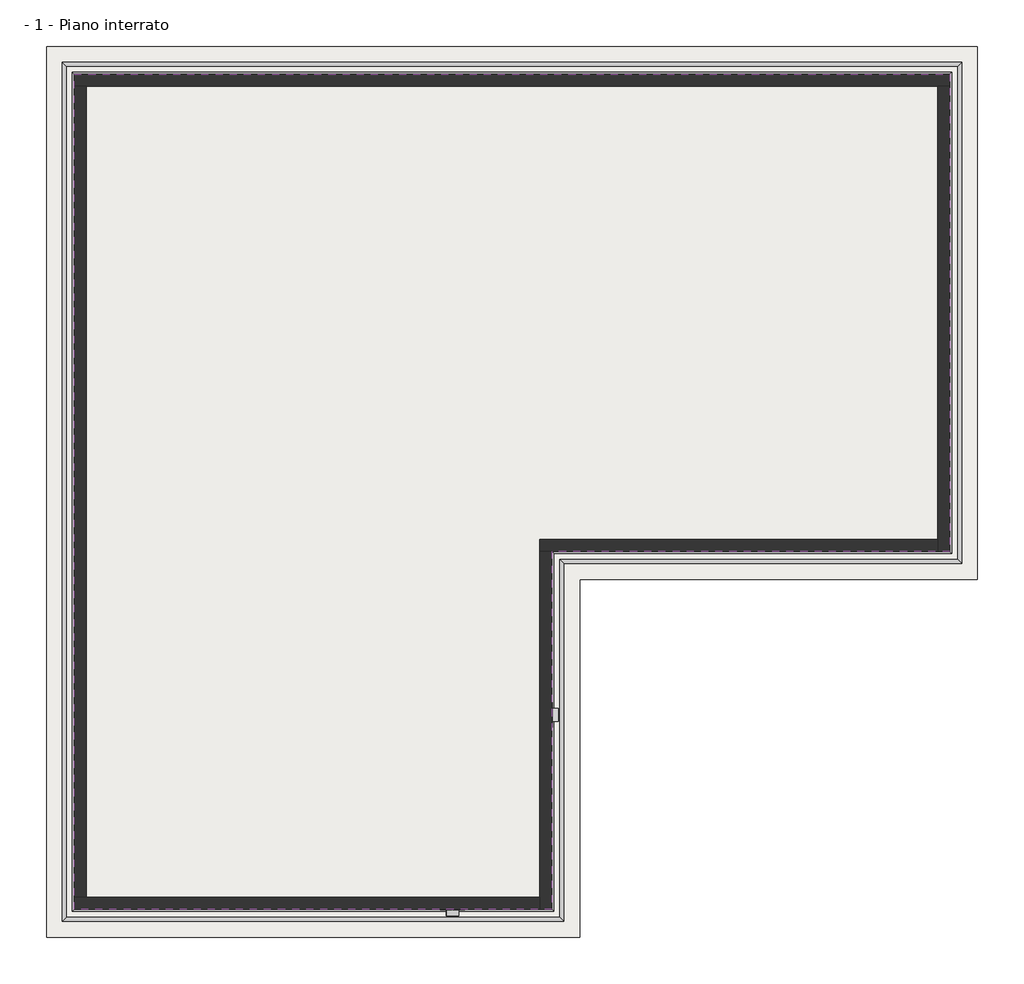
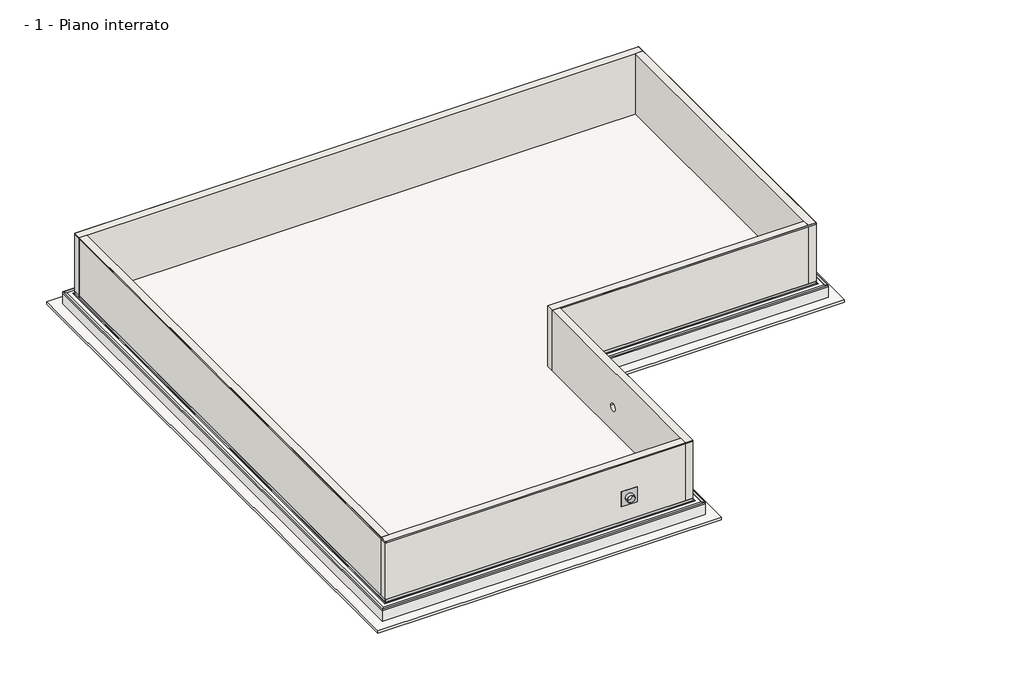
# One storey: 7 proxies, 6 walls, 2 slabs.
"""IFC4 building model written with IfcOpenShell, lengths in millimetres."""

from ifc_helpers import new_model, si_unit, frame, origin, place, context, project, spatial, polyline, circle_curve, outline, extrude, faceted_brep, transform, mapped, element, save
from ifc_brep_helpers import plane_surface, revolved_surface, advanced_brep
from components import generic_models_91e2fdae

model = new_model("IFC4")

# Units and contexts
model_context = context("Model", 3, world=origin())
ifc_project = project(units=[si_unit("LENGTHUNIT", "METRE", prefix="MILLI")], contexts=[model_context])

# Site, building, storey
site = spatial("IfcSite", under=ifc_project)
building = spatial("IfcBuilding", under=site)
storey = spatial("IfcBuildingStorey", under=building, Name="- 1 - Piano interrato", Elevation=-2500.0)

# Proxies
placement = place(None, origin())
element("IfcBuildingElementProxy", 1, Name="AMPHIBIA VOLTECO PRESSURE LINE", ObjectType="AMPHIBIA VOLTECO PRESSURE LINE", at=placement, inside=storey, context=model_context, shape_type="SweptSolid", body=[
    extrude(outline(polyline([(-8121.3472563, -9067.0974438), (-8122.3472563, -9068.0974438), (-8122.3472563, 11933.9025562), (-8121.3472563, 11932.9025562), (-8121.3472563, -9067.0974438)])), frame((0.0, 0.0, -50.0), z_axis=(0.0, 0.0, 1.0), x_axis=(1.0, 0.0, 0.0)), (0.0, 0.0, 1.0), 50.0),
    extrude(outline(polyline([(3878.6527437, -9067.0974438), (3879.6527437, -9068.0974438), (-8122.3472563, -9068.0974438), (-8121.3472563, -9067.0974438), (3878.6527437, -9067.0974438)])), frame((0.0, 0.0, -50.0), z_axis=(0.0, 0.0, 1.0), x_axis=(1.0, 0.0, 0.0)), (0.0, 0.0, 1.0), 50.0),
    extrude(outline(polyline([(3878.6527437, -67.0974438), (3879.6527437, -68.0974438), (3879.6527437, -9068.0974438), (3878.6527437, -9067.0974438), (3878.6527437, -67.0974438)])), frame((0.0, 0.0, -50.0), z_axis=(0.0, 0.0, 1.0), x_axis=(1.0, 0.0, 0.0)), (0.0, 0.0, 1.0), 50.0),
    extrude(outline(polyline([(13878.6527437, -67.0974438), (13879.6527437, -68.0974438), (3879.6527437, -68.0974438), (3878.6527437, -67.0974438), (13878.6527437, -67.0974438)])), frame((0.0, 0.0, -50.0), z_axis=(0.0, 0.0, 1.0), x_axis=(1.0, 0.0, 0.0)), (0.0, 0.0, 1.0), 50.0),
    extrude(outline(polyline([(13878.6527437, 11932.9025562), (13879.6527437, 11933.9025562), (13879.6527437, -68.0974438), (13878.6527437, -67.0974438), (13878.6527437, 11932.9025562)])), frame((0.0, 0.0, -50.0), z_axis=(0.0, 0.0, 1.0), x_axis=(1.0, 0.0, 0.0)), (0.0, 0.0, 1.0), 50.0),
    extrude(outline(polyline([(-8121.3472563, 11932.9025562), (-8122.3472563, 11933.9025562), (13879.6527437, 11933.9025562), (13878.6527437, 11932.9025562), (-8121.3472563, 11932.9025562)])), frame((0.0, 0.0, -50.0), z_axis=(0.0, 0.0, 1.0), x_axis=(1.0, 0.0, 0.0)), (0.0, 0.0, 1.0), 50.0),
])
element("IfcBuildingElementProxy", 2, Name="AMPHIBIA CORNER 90° VOLTECO", ObjectType="AMPHIBIA CORNER 90° VOLTECO", at=placement, inside=storey, context=model_context, shape_type="Brep", body=[
    faceted_brep([(14179.6527437, 12233.9025562, -2550.0), (14178.6527437, 12232.9025562, -2550.0), (-8421.3472563, 12232.9025562, -2550.0), (-8422.3472563, 12233.9025562, -2550.0), (14179.6527437, 12233.9025562, -2499.0), (-8422.3472563, 12233.9025562, -2499.0), (14078.6527437, 12132.9025562, -2499.0), (-8321.3472563, 12132.9025562, -2499.0), (14078.6527437, 12132.9025562, -2500.0), (-8321.3472563, 12132.9025562, -2500.0), (14178.6527437, 12232.9025562, -2500.0), (-8421.3472563, 12232.9025562, -2500.0), (-8421.3472563, -9367.0974438, -2550.0), (-8422.3472563, -9368.0974438, -2550.0), (-8422.3472563, -9368.0974438, -2499.0), (-8321.3472563, -9267.0974438, -2499.0), (-8321.3472563, -9267.0974438, -2500.0), (-8421.3472563, -9367.0974438, -2500.0), (4178.6527437, -9367.0974438, -2550.0), (4179.6527437, -9368.0974438, -2550.0), (4179.6527437, -9368.0974438, -2499.0), (4078.6527437, -9267.0974438, -2499.0), (4078.6527437, -9267.0974438, -2500.0), (4178.6527437, -9367.0974438, -2500.0), (4178.6527437, -367.0974438, -2550.0), (4179.6527437, -368.0974438, -2550.0), (4179.6527437, -368.0974438, -2499.0), (4078.6527437, -267.0974438, -2499.0), (4078.6527437, -267.0974438, -2500.0), (4178.6527437, -367.0974438, -2500.0), (14178.6527437, -367.0974438, -2550.0), (14179.6527437, -368.0974438, -2550.0), (14179.6527437, -368.0974438, -2499.0), (14078.6527437, -267.0974438, -2499.0), (14078.6527437, -267.0974438, -2500.0), (14178.6527437, -367.0974438, -2500.0)], [[[0, 1, 2, 3]], [[4, 0, 3, 5]], [[6, 4, 5, 7]], [[8, 6, 7, 9]], [[10, 8, 9, 11]], [[1, 10, 11, 2]], [[3, 2, 12, 13]], [[5, 3, 13, 14]], [[7, 5, 14, 15]], [[9, 7, 15, 16]], [[11, 9, 16, 17]], [[2, 11, 17, 12]], [[13, 12, 18, 19]], [[14, 13, 19, 20]], [[15, 14, 20, 21]], [[16, 15, 21, 22]], [[17, 16, 22, 23]], [[12, 17, 23, 18]], [[19, 18, 24, 25]], [[20, 19, 25, 26]], [[21, 20, 26, 27]], [[22, 21, 27, 28]], [[23, 22, 28, 29]], [[18, 23, 29, 24]], [[25, 24, 30, 31]], [[26, 25, 31, 32]], [[27, 26, 32, 33]], [[28, 27, 33, 34]], [[29, 28, 34, 35]], [[24, 29, 35, 30]], [[1, 0, 31, 30]], [[0, 4, 32, 31]], [[4, 6, 33, 32]], [[6, 8, 34, 33]], [[8, 10, 35, 34]], [[10, 1, 30, 35]]]),
])
element("IfcBuildingElementProxy", 3, Name="AKTI-VO 201 VOLTECO", ObjectType="AKTI-VO 201 VOLTECO", at=placement, inside=storey, context=model_context, shape_type="SweptSolid", body=[
    extrude(outline(polyline([(13902.5527437, 11956.8025562), (13903.5527437, 11957.8025562), (13903.5527437, -91.9974438), (13902.5527437, -90.9974438), (13902.5527437, 11956.8025562)])), frame((0.0, 0.0, -2500.0), z_axis=(0.0, 0.0, 1.0), x_axis=(1.0, 0.0, 0.0)), (0.0, 0.0, 1.0), 1.0),
    extrude(outline(polyline([(13902.5527437, -90.9974438), (13903.5527437, -91.9974438), (3903.5527437, -91.9974438), (3902.5527437, -90.9974438), (13902.5527437, -90.9974438)])), frame((0.0, 0.0, -2500.0), z_axis=(0.0, 0.0, 1.0), x_axis=(1.0, 0.0, 0.0)), (0.0, 0.0, 1.0), 1.0),
    extrude(outline(polyline([(3902.5527437, -90.9974438), (3903.5527437, -91.9974438), (3903.5527437, -9091.9974438), (3902.5527437, -9090.9974438), (3902.5527437, -90.9974438)])), frame((0.0, 0.0, -2500.0), z_axis=(0.0, 0.0, 1.0), x_axis=(1.0, 0.0, 0.0)), (0.0, 0.0, 1.0), 1.0),
    extrude(outline(polyline([(3902.5527437, -9090.9974438), (3903.5527437, -9091.9974438), (-8146.2472563, -9091.9974438), (-8145.2472563, -9090.9974438), (3902.5527437, -9090.9974438)])), frame((0.0, 0.0, -2500.0), z_axis=(0.0, 0.0, 1.0), x_axis=(1.0, 0.0, 0.0)), (0.0, 0.0, 1.0), 1.0),
    extrude(outline(polyline([(-8145.2472563, 11956.8025562), (-8146.2472563, 11957.8025562), (13903.5527437, 11957.8025562), (13902.5527437, 11956.8025562), (-8145.2472563, 11956.8025562)])), frame((0.0, 0.0, -2500.0), z_axis=(0.0, 0.0, 1.0), x_axis=(1.0, 0.0, 0.0)), (0.0, 0.0, 1.0), 1.0),
    extrude(outline(polyline([(-8145.2472563, -9090.9974438), (-8146.2472563, -9091.9974438), (-8146.2472563, 11957.8025562), (-8145.2472563, 11956.8025562), (-8145.2472563, -9090.9974438)])), frame((0.0, 0.0, -2500.0), z_axis=(0.0, 0.0, 1.0), x_axis=(1.0, 0.0, 0.0)), (0.0, 0.0, 1.0), 1.0),
])
element("IfcBuildingElementProxy", 4, Name="AMPHIBIA CORNER 270° VOLTECO", ObjectType="AMPHIBIA CORNER 270° VOLTECO", at=placement, inside=storey, context=model_context, shape_type="Brep", body=[
    faceted_brep([(13929.6527437, 11983.9025562, -2498.0), (13929.6527437, 11983.9025562, -2499.0), (13878.6527437, 11932.9025562, -2499.0), (13878.6527437, 11932.9025562, -2398.0), (13879.6527437, 11933.9025562, -2398.0), (13879.6527437, 11933.9025562, -2498.0), (13929.6527437, -118.0974438, -2498.0), (13879.6527437, -68.0974438, -2498.0), (13879.6527437, -68.0974438, -2398.0), (13878.6527437, -67.0974438, -2398.0), (13878.6527437, -67.0974438, -2499.0), (13929.6527437, -118.0974438, -2499.0)], [[[0, 1, 2, 3, 4, 5]], [[6, 7, 8, 9, 10, 11]], [[1, 0, 6, 11]], [[2, 1, 11, 10]], [[3, 2, 10, 9]], [[4, 3, 9, 8]], [[5, 4, 8, 7]], [[0, 5, 7, 6]]]),
    faceted_brep([(-8172.3472563, 11983.9025562, -2498.0), (-8172.3472563, 11983.9025562, -2499.0), (-8121.3472563, 11932.9025562, -2499.0), (-8121.3472563, 11932.9025562, -2398.0), (-8122.3472563, 11933.9025562, -2398.0), (-8122.3472563, 11933.9025562, -2498.0), (13929.6527437, 11983.9025562, -2498.0), (13879.6527437, 11933.9025562, -2498.0), (13879.6527437, 11933.9025562, -2398.0), (13878.6527437, 11932.9025562, -2398.0), (13878.6527437, 11932.9025562, -2499.0), (13929.6527437, 11983.9025562, -2499.0)], [[[0, 1, 2, 3, 4, 5]], [[6, 7, 8, 9, 10, 11]], [[1, 0, 6, 11]], [[2, 1, 11, 10]], [[3, 2, 10, 9]], [[4, 3, 9, 8]], [[5, 4, 8, 7]], [[0, 5, 7, 6]]]),
    faceted_brep([(-8172.3472563, -9118.0974438, -2498.0), (-8172.3472563, -9118.0974438, -2499.0), (-8121.3472563, -9067.0974438, -2499.0), (-8121.3472563, -9067.0974438, -2398.0), (-8122.3472563, -9068.0974438, -2398.0), (-8122.3472563, -9068.0974438, -2498.0), (-8172.3472563, 11983.9025562, -2498.0), (-8122.3472563, 11933.9025562, -2498.0), (-8122.3472563, 11933.9025562, -2398.0), (-8121.3472563, 11932.9025562, -2398.0), (-8121.3472563, 11932.9025562, -2499.0), (-8172.3472563, 11983.9025562, -2499.0)], [[[0, 1, 2, 3, 4, 5]], [[6, 7, 8, 9, 10, 11]], [[1, 0, 6, 11]], [[2, 1, 11, 10]], [[3, 2, 10, 9]], [[4, 3, 9, 8]], [[5, 4, 8, 7]], [[0, 5, 7, 6]]]),
    faceted_brep([(3929.6527437, -9118.0974438, -2498.0), (3929.6527437, -9118.0974438, -2499.0), (3878.6527437, -9067.0974438, -2499.0), (3878.6527437, -9067.0974438, -2398.0), (3879.6527437, -9068.0974438, -2398.0), (3879.6527437, -9068.0974438, -2498.0), (-8172.3472563, -9118.0974438, -2498.0), (-8122.3472563, -9068.0974438, -2498.0), (-8122.3472563, -9068.0974438, -2398.0), (-8121.3472563, -9067.0974438, -2398.0), (-8121.3472563, -9067.0974438, -2499.0), (-8172.3472563, -9118.0974438, -2499.0)], [[[0, 1, 2, 3, 4, 5]], [[6, 7, 8, 9, 10, 11]], [[1, 0, 6, 11]], [[2, 1, 11, 10]], [[3, 2, 10, 9]], [[4, 3, 9, 8]], [[5, 4, 8, 7]], [[0, 5, 7, 6]]]),
    faceted_brep([(3929.6527437, -118.0974438, -2498.0), (3929.6527437, -118.0974438, -2499.0), (3878.6527437, -67.0974438, -2499.0), (3878.6527437, -67.0974438, -2398.0), (3879.6527437, -68.0974438, -2398.0), (3879.6527437, -68.0974438, -2498.0), (3929.6527437, -9118.0974438, -2498.0), (3879.6527437, -9068.0974438, -2498.0), (3879.6527437, -9068.0974438, -2398.0), (3878.6527437, -9067.0974438, -2398.0), (3878.6527437, -9067.0974438, -2499.0), (3929.6527437, -9118.0974438, -2499.0)], [[[0, 1, 2, 3, 4, 5]], [[6, 7, 8, 9, 10, 11]], [[1, 0, 6, 11]], [[2, 1, 11, 10]], [[3, 2, 10, 9]], [[4, 3, 9, 8]], [[5, 4, 8, 7]], [[0, 5, 7, 6]]]),
    faceted_brep([(13929.6527437, -118.0974438, -2498.0), (13929.6527437, -118.0974438, -2499.0), (13878.6527437, -67.0974438, -2499.0), (13878.6527437, -67.0974438, -2398.0), (13879.6527437, -68.0974438, -2398.0), (13879.6527437, -68.0974438, -2498.0), (3929.6527437, -118.0974438, -2498.0), (3879.6527437, -68.0974438, -2498.0), (3879.6527437, -68.0974438, -2398.0), (3878.6527437, -67.0974438, -2398.0), (3878.6527437, -67.0974438, -2499.0), (3929.6527437, -118.0974438, -2499.0)], [[[0, 1, 2, 3, 4, 5]], [[6, 7, 8, 9, 10, 11]], [[1, 0, 6, 11]], [[2, 1, 11, 10]], [[3, 2, 10, 9]], [[4, 3, 9, 8]], [[5, 4, 8, 7]], [[0, 5, 7, 6]]]),
])
element("IfcBuildingElementProxy", 5, Name="WT 102 VOLTECO", ObjectType="WT 102 VOLTECO", at=placement, inside=storey, context=model_context, shape_type="SweptSolid", body=[
    extrude(outline(polyline([(3718.6527437, -8907.0974438), (3738.6527437, -8927.0974438), (-7981.3472563, -8927.0974438), (-7961.3472563, -8907.0974438), (3718.6527437, -8907.0974438)])), frame((0.0, 0.0, -2500.0), z_axis=(0.0, 0.0, 1.0), x_axis=(1.0, 0.0, 0.0)), (0.0, 0.0, 1.0), 20.0),
    extrude(outline(polyline([(3718.6527437, 92.9025562), (3738.6527437, 72.9025562), (3738.6527437, -8927.0974438), (3718.6527437, -8907.0974438), (3718.6527437, 92.9025562)])), frame((0.0, 0.0, -2500.0), z_axis=(0.0, 0.0, 1.0), x_axis=(1.0, 0.0, 0.0)), (0.0, 0.0, 1.0), 20.0),
    extrude(outline(polyline([(13718.6527437, 92.9025562), (13738.6527437, 72.9025562), (3738.6527437, 72.9025562), (3718.6527437, 92.9025562), (13718.6527437, 92.9025562)])), frame((0.0, 0.0, -2500.0), z_axis=(0.0, 0.0, 1.0), x_axis=(1.0, 0.0, 0.0)), (0.0, 0.0, 1.0), 20.0),
    extrude(outline(polyline([(13718.6527437, 11772.9025562), (13738.6527437, 11792.9025562), (13738.6527437, 72.9025562), (13718.6527437, 92.9025562), (13718.6527437, 11772.9025562)])), frame((0.0, 0.0, -2500.0), z_axis=(0.0, 0.0, 1.0), x_axis=(1.0, 0.0, 0.0)), (0.0, 0.0, 1.0), 20.0),
    extrude(outline(polyline([(-7961.3472563, 11772.9025562), (-7981.3472563, 11792.9025562), (13738.6527437, 11792.9025562), (13718.6527437, 11772.9025562), (-7961.3472563, 11772.9025562)])), frame((0.0, 0.0, -2500.0), z_axis=(0.0, 0.0, 1.0), x_axis=(1.0, 0.0, 0.0)), (0.0, 0.0, 1.0), 20.0),
    extrude(outline(polyline([(-7961.3472563, -8907.0974438), (-7981.3472563, -8927.0974438), (-7981.3472563, 11792.9025562), (-7961.3472563, 11772.9025562), (-7961.3472563, -8907.0974438)])), frame((0.0, 0.0, -2500.0), z_axis=(0.0, 0.0, 1.0), x_axis=(1.0, 0.0, 0.0)), (0.0, 0.0, 1.0), 20.0),
])
generic_models_shape = generic_models_91e2fdae(model_context)
element("IfcBuildingElementProxy", 6, Name="ENG-Volteco_Amphibia Pipe : ENG-Volteco_Amphibia Pipe", ObjectType="ENG-Volteco_Amphibia Pipe : ENG-Volteco_Amphibia Pipe", at=placement, inside=storey, context=model_context, shape_type="MappedRepresentation", body=[
    mapped(generic_models_shape, transform((3878.6527437, -4175.0974438, -1509.7375596), x_axis=(0.0, 1.0, 0.0), y_axis=(0.0, 0.0, 1.0), z_axis=(1.0, 0.0, 0.0))),
])
element("IfcBuildingElementProxy", 7, Name="ENG-Volteco_Amphibia Pipe : ENG-Volteco_Amphibia Pipe", ObjectType="ENG-Volteco_Amphibia Pipe : ENG-Volteco_Amphibia Pipe", at=placement, inside=storey, context=model_context, shape_type="MappedRepresentation", body=[
    mapped(generic_models_shape, transform((1381.6527437, -9067.0974438, -1461.6877544), x_axis=(1.0, 0.0, 0.0), y_axis=(0.0, 0.0, 1.0), z_axis=(0.0, -1.0, 0.0))),
])

# Slabs
element("IfcSlab", 8, ObjectType="Blinding concrete - 10 cm", at=placement, inside=storey, context=model_context, shape_type="SweptSolid", body=[
    extrude(outline(polyline([(14578.6527437, 12632.9025562), (14578.6527437, -767.0974438), (4578.6527437, -767.0974438), (4578.6527437, -9767.0974438), (-8821.3472563, -9767.0974438), (-8821.3472563, 12632.9025562), (14578.6527437, 12632.9025562)])), frame((0.0, 0.0, -3100.0), z_axis=(0.0, 0.0, 1.0), x_axis=(1.0, 0.0, 0.0)), (0.0, 0.0, 1.0), 100.0),
])
element("IfcSlab", 9, ObjectType="Raft foundation - 50 cm", at=placement, inside=storey, context=model_context, shape_type="Brep", body=[
    faceted_brep([(14178.6527437, 12232.9025562, -3000.0), (14178.6527437, -367.0974438, -3000.0), (4178.6527437, -367.0974438, -3000.0), (4178.6527437, -9367.0974438, -3000.0), (-8421.3472563, -9367.0974438, -3000.0), (-8421.3472563, 12232.9025562, -3000.0), (14178.6527437, 12232.9025562, -2500.0), (-8421.3472563, 12232.9025562, -2500.0), (-8421.3472563, -9367.0974438, -2500.0), (4178.6527437, -9367.0974438, -2500.0), (4178.6527437, -367.0974438, -2500.0), (14178.6527437, -367.0974438, -2500.0), (14178.6527437, 12232.9025562, -2550.0), (14178.6527437, -367.0974438, -2550.0), (4178.6527437, -367.0974438, -2550.0), (4178.6527437, -9367.0974438, -2550.0), (-8421.3472563, -9367.0974438, -2550.0), (-8421.3472563, 12232.9025562, -2550.0)], [[[0, 1, 2, 3, 4, 5]], [[6, 7, 8, 9, 10, 11]], [[1, 0, 12, 6, 11, 13]], [[2, 1, 13, 11, 10, 14]], [[3, 2, 14, 10, 9, 15]], [[4, 3, 15, 9, 8, 16]], [[5, 4, 16, 8, 7, 17]], [[0, 5, 17, 7, 6, 12]]]),
])

# Walls
element("IfcWall", 10, ObjectType="Foundation walls - 30 cm", at=placement, inside=storey, context=model_context, shape_type="Brep", body=[
    faceted_brep([(13878.6527437, 11632.9025562, 0.0), (13578.6527437, 11632.9025562, 0.0), (-7821.3472563, 11632.9025562, 0.0), (-8121.3472563, 11632.9025562, 0.0), (-8121.3472563, 11632.9025562, -50.0), (-8121.3472563, 11632.9025562, -2398.0), (-8121.3472563, 11632.9025562, -2499.0), (-8121.3472563, 11632.9025562, -2500.0), (-7981.3472563, 11632.9025562, -2500.0), (-7981.3472563, 11632.9025562, -2480.0), (-7961.3472563, 11632.9025562, -2480.0), (-7961.3472563, 11632.9025562, -2500.0), (-7821.3472563, 11632.9025562, -2500.0), (13578.6527437, 11632.9025562, -2500.0), (13718.6527437, 11632.9025562, -2500.0), (13718.6527437, 11632.9025562, -2480.0), (13738.6527437, 11632.9025562, -2480.0), (13738.6527437, 11632.9025562, -2500.0), (13878.6527437, 11632.9025562, -2500.0), (13878.6527437, 11632.9025562, -2499.0), (13878.6527437, 11632.9025562, -2398.0), (13878.6527437, 11632.9025562, -50.0), (-8121.3472563, 11932.9025562, 0.0), (13878.6527437, 11932.9025562, 0.0), (13878.6527437, 11932.9025562, -50.0), (13878.6527437, 11932.9025562, -2398.0), (13878.6527437, 11932.9025562, -2499.0), (13878.6527437, 11932.9025562, -2500.0), (-8121.3472563, 11932.9025562, -2500.0), (-8121.3472563, 11932.9025562, -2499.0), (-8121.3472563, 11932.9025562, -2398.0), (-8121.3472563, 11932.9025562, -50.0), (13738.6527437, 11792.9025562, -2500.0), (-7981.3472563, 11792.9025562, -2500.0), (-7961.3472563, 11772.9025562, -2500.0), (13718.6527437, 11772.9025562, -2500.0), (-7961.3472563, 11772.9025562, -2480.0), (13718.6527437, 11772.9025562, -2480.0), (-7981.3472563, 11792.9025562, -2480.0), (13738.6527437, 11792.9025562, -2480.0)], [[[0, 1, 2, 3, 4, 5, 6, 7, 8, 9, 10, 11, 12, 13, 14, 15, 16, 17, 18, 19, 20, 21]], [[22, 23, 24, 25, 26, 27, 28, 29, 30, 31]], [[3, 2, 1, 0, 23, 22]], [[23, 0, 21, 20, 19, 18, 27, 26, 25, 24]], [[3, 22, 31, 30, 29, 28, 7, 6, 5, 4]], [[7, 28, 27, 18, 17, 32, 33, 8]], [[14, 13, 12, 11, 34, 35]], [[36, 34, 11, 10]], [[34, 36, 37, 35]], [[35, 37, 15, 14]], [[37, 36, 10, 9, 38, 39, 16, 15]], [[33, 38, 9, 8]], [[39, 38, 33, 32]], [[39, 32, 17, 16]]]),
])
element("IfcWall", 11, ObjectType="Foundation walls - 30 cm", at=placement, inside=storey, context=model_context, shape_type="Brep", body=[
    faceted_brep([(13578.6527437, -67.0974438, 0.0), (13578.6527437, 232.9025562, 0.0), (13578.6527437, 11632.9025562, 0.0), (13578.6527437, 11632.9025562, -2500.0), (13578.6527437, 232.9025562, -2500.0), (13578.6527437, 92.9025562, -2500.0), (13578.6527437, 92.9025562, -2480.0), (13578.6527437, 72.9025562, -2480.0), (13578.6527437, 72.9025562, -2500.0), (13578.6527437, -67.0974438, -2500.0), (13578.6527437, -67.0974438, -2499.0), (13578.6527437, -67.0974438, -2398.0), (13578.6527437, -67.0974438, -50.0), (13878.6527437, 11632.9025562, 0.0), (13878.6527437, -67.0974438, 0.0), (13878.6527437, -67.0974438, -50.0), (13878.6527437, -67.0974438, -2398.0), (13878.6527437, -67.0974438, -2499.0), (13878.6527437, -67.0974438, -2500.0), (13878.6527437, 11632.9025562, -2500.0), (13878.6527437, 11632.9025562, -2499.0), (13878.6527437, 11632.9025562, -2398.0), (13878.6527437, 11632.9025562, -50.0), (13738.6527437, 11632.9025562, -2500.0), (13738.6527437, 11632.9025562, -2480.0), (13718.6527437, 11632.9025562, -2480.0), (13718.6527437, 11632.9025562, -2500.0), (13738.6527437, 72.9025562, -2500.0), (13718.6527437, 92.9025562, -2500.0), (13718.6527437, 92.9025562, -2480.0), (13738.6527437, 72.9025562, -2480.0)], [[[0, 1, 2, 3, 4, 5, 6, 7, 8, 9, 10, 11, 12]], [[13, 14, 15, 16, 17, 18, 19, 20, 21, 22]], [[2, 1, 0, 14, 13]], [[3, 2, 13, 22, 21, 20, 19, 23, 24, 25, 26]], [[14, 0, 12, 11, 10, 9, 18, 17, 16, 15]], [[19, 18, 9, 8, 27, 23]], [[5, 4, 3, 26, 28]], [[29, 28, 26, 25]], [[28, 29, 6, 5]], [[6, 29, 25, 24, 30, 7]], [[27, 30, 24, 23]], [[30, 27, 8, 7]]]),
])
element("IfcWall", 12, ObjectType="Foundation walls - 30 cm", at=placement, inside=storey, context=model_context, shape_type="Brep", body=[
    faceted_brep([(3578.6527437, 232.9025562, 0.0), (13578.6527437, 232.9025562, 0.0), (13578.6527437, 232.9025562, -2500.0), (3578.6527437, 232.9025562, -2500.0), (3578.6527437, -67.0974438, 0.0), (3578.6527437, -67.0974438, -2500.0), (3718.6527437, -67.0974438, -2500.0), (3718.6527437, -67.0974438, -2480.0), (3738.6527437, -67.0974438, -2480.0), (3738.6527437, -67.0974438, -2500.0), (3878.6527437, -67.0974438, -2500.0), (13578.6527437, -67.0974438, -2500.0), (13578.6527437, -67.0974438, -2499.0), (13578.6527437, -67.0974438, -2398.0), (13578.6527437, -67.0974438, -50.0), (13578.6527437, -67.0974438, 0.0), (3878.6527437, -67.0974438, 0.0), (13578.6527437, 72.9025562, -2500.0), (13578.6527437, 72.9025562, -2480.0), (13578.6527437, 92.9025562, -2480.0), (13578.6527437, 92.9025562, -2500.0), (3718.6527437, 92.9025562, -2500.0), (3738.6527437, 72.9025562, -2500.0), (3718.6527437, 92.9025562, -2480.0), (3738.6527437, 72.9025562, -2480.0)], [[[0, 1, 2, 3]], [[4, 5, 6, 7, 8, 9, 10, 11, 12, 13, 14, 15, 16]], [[1, 0, 4, 16, 15]], [[2, 1, 15, 14, 13, 12, 11, 17, 18, 19, 20]], [[0, 3, 5, 4]], [[3, 2, 20, 21, 6, 5]], [[11, 10, 9, 22, 17]], [[23, 21, 20, 19]], [[21, 23, 7, 6]], [[7, 23, 19, 18, 24, 8]], [[22, 24, 18, 17]], [[24, 22, 9, 8]]]),
])
element("IfcWall", 13, ObjectType="Foundation walls - 30 cm", at=placement, inside=storey, context=model_context, shape_type="AdvancedBrep", body=[
    advanced_brep(
    [(3578.6527437, -9067.0974438, 0.0), (3578.6527437, -8767.0974438, 0.0), (3578.6527437, -67.0974438, 0.0), (3578.6527437, -67.0974438, -2500.0), (3578.6527437, -8767.0974438, -2500.0), (3578.6527437, -8907.0974438, -2500.0), (3578.6527437, -8907.0974438, -2480.0), (3578.6527437, -8927.0974438, -2480.0), (3578.6527437, -8927.0974438, -2500.0), (3578.6527437, -9067.0974438, -2500.0), (3578.6527437, -9067.0974438, -2499.0), (3578.6527437, -9067.0974438, -2398.0), (3578.6527437, -9067.0974438, -50.0), (3578.6527437, -4325.0974438, -1509.7375596), (3578.6527437, -4025.0974438, -1509.7375596), (3878.6527437, -67.0974438, 0.0), (3878.6527437, -9067.0974438, 0.0), (3878.6527437, -9067.0974438, -50.0), (3878.6527437, -9067.0974438, -2398.0), (3878.6527437, -9067.0974438, -2499.0), (3878.6527437, -9067.0974438, -2500.0), (3878.6527437, -67.0974438, -2500.0), (3878.6527437, -67.0974438, -2499.0), (3878.6527437, -67.0974438, -2398.0), (3878.6527437, -67.0974438, -50.0), (3878.6527437, -4025.0974438, -1509.7375596), (3878.6527437, -4325.0974438, -1509.7375596), (3738.6527437, -67.0974438, -2500.0), (3738.6527437, -67.0974438, -2480.0), (3718.6527437, -67.0974438, -2480.0), (3718.6527437, -67.0974438, -2500.0), (3738.6527437, -8927.0974438, -2500.0), (3718.6527437, -8907.0974438, -2500.0), (3718.6527437, -8907.0974438, -2480.0), (3738.6527437, -8927.0974438, -2480.0)],
    [
        (0, 1),
        (1, 2),
        (2, 3),
        (3, 4),
        (4, 5),
        (5, 6),
        (6, 7),
        (7, 8),
        (8, 9),
        (9, 10),
        (10, 11),
        (11, 12),
        (12, 0),
        (13, 14, circle_curve(frame((3578.6527437, -4175.0974438, -1509.7375596), z_axis=(1.0, 0.0, 0.0), x_axis=(0.0, 1.0, 0.0)), 150.0)),
        (14, 13, circle_curve(frame((3578.6527437, -4175.0974438, -1509.7375596), z_axis=(1.0, 0.0, 0.0), x_axis=(0.0, 1.0, 0.0)), 150.0)),
        (15, 16),
        (16, 17),
        (17, 18),
        (18, 19),
        (19, 20),
        (20, 21),
        (21, 22),
        (22, 23),
        (23, 24),
        (24, 15),
        (25, 26, circle_curve(frame((3878.6527437, -4175.0974438, -1509.7375596), z_axis=(-1.0, 0.0, 0.0), x_axis=(0.0, 1.0, 0.0)), 150.0)),
        (26, 25, circle_curve(frame((3878.6527437, -4175.0974438, -1509.7375596), z_axis=(-1.0, 0.0, 0.0), x_axis=(0.0, 1.0, 0.0)), 150.0)),
        (0, 16),
        (15, 2),
        (21, 27),
        (27, 28),
        (28, 29),
        (29, 30),
        (30, 3),
        (9, 20),
        (8, 31),
        (31, 27),
        (30, 32),
        (32, 5),
        (13, 26),
        (25, 14),
        (33, 32),
        (29, 33),
        (33, 6),
        (28, 34),
        (34, 7),
        (31, 34),
    ],
    [
        plane_surface(frame((3578.6527437, -67.0974438, -2500.0), z_axis=(-1.0, 0.0, 0.0), x_axis=(0.0, -1.0, 0.0))),
        plane_surface(frame((3878.6527437, -67.0974438, -2500.0), z_axis=(1.0, 0.0, 0.0), x_axis=(0.0, 1.0, 0.0))),
        plane_surface(frame((3578.6527437, -8917.0974438, 0.0), z_axis=(0.0, 0.0, 1.0), x_axis=(1.0, 0.0, 0.0))),
        plane_surface(frame((13878.6527437, -67.0974438, -2500.0), z_axis=(0.0, 1.0, 0.0), x_axis=(1.0, 0.0, 0.0))),
        plane_surface(frame((3878.6527437, -9067.0974438, -2500.0), z_axis=(0.0, -1.0, 0.0), x_axis=(1.0, 0.0, 0.0))),
        plane_surface(frame((14178.6527437, 11932.9025562, -2500.0), z_axis=(0.0, 0.0, -1.0), x_axis=(0.0, 1.0, 0.0))),
        revolved_surface(polyline([(3878.6527437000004, -4025.0974438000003, -1509.7375596), (3578.6527437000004, -4025.0974438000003, -1509.7375596)]), (1286.2890556, -4175.0974438, -1509.7375596), (1.0, 0.0, 0.0)),
        plane_surface(frame((3718.6527437, 92.9025562, -2500.0), z_axis=(1.0, 0.0, 0.0), x_axis=(0.0, -1.0, 0.0))),
        plane_surface(frame((3718.6527437, -8907.0974438, -2500.0), z_axis=(0.0, -1.0, 0.0), x_axis=(-1.0, 0.0, 0.0))),
        plane_surface(frame((13878.6527437, 92.9025562, -2480.0), z_axis=(0.0, 0.0, -1.0), x_axis=(-1.0, 0.0, 0.0))),
        plane_surface(frame((3738.6527437, 72.9025562, -2480.0), z_axis=(-1.0, 0.0, 0.0), x_axis=(0.0, -1.0, 0.0))),
        plane_surface(frame((3738.6527437, -8927.0974438, -2480.0), z_axis=(0.0, 1.0, 0.0), x_axis=(-1.0, 0.0, 0.0))),
    ],
    [
        (0, [[1, 2, 3, 4, 5, 6, 7, 8, 9, 10, 11, 12, 13], [14, 15]]),
        (1, [[16, 17, 18, 19, 20, 21, 22, 23, 24, 25], [26, 27]]),
        (2, [[-2, -1, 28, -16, 29]]),
        (3, [[-3, -29, -25, -24, -23, -22, 30, 31, 32, 33, 34]]),
        (4, [[-28, -13, -12, -11, -10, 35, -20, -19, -18, -17]]),
        (5, [[-21, -35, -9, 36, 37, -30]]),
        (5, [[-5, -4, -34, 38, 39]]),
        (6, [[40, -26, 41, -14]]),
        (6, [[-40, -15, -41, -27]]),
        (7, [[42, -38, -33, 43]]),
        (8, [[-42, 44, -6, -39]]),
        (9, [[-44, -43, -32, 45, 46, -7]]),
        (10, [[47, -45, -31, -37]]),
        (11, [[-47, -36, -8, -46]]),
    ],
),
])
element("IfcWall", 14, ObjectType="Foundation walls - 30 cm", at=placement, inside=storey, context=model_context, shape_type="AdvancedBrep", body=[
    advanced_brep(
    [(-8121.3472563, -8767.0974438, 0.0), (-7821.3472563, -8767.0974438, 0.0), (3578.6527437, -8767.0974438, 0.0), (3578.6527437, -8767.0974438, -2500.0), (-7821.3472563, -8767.0974438, -2500.0), (-7961.3472563, -8767.0974438, -2500.0), (-7961.3472563, -8767.0974438, -2480.0), (-7981.3472563, -8767.0974438, -2480.0), (-7981.3472563, -8767.0974438, -2500.0), (-8121.3472563, -8767.0974438, -2500.0), (-8121.3472563, -8767.0974438, -2499.0), (-8121.3472563, -8767.0974438, -2398.0), (-8121.3472563, -8767.0974438, -50.0), (1231.6527437, -8767.0974438, -1461.6877544), (1531.6527437, -8767.0974438, -1461.6877544), (3578.6527437, -9067.0974438, 0.0), (-8121.3472563, -9067.0974438, 0.0), (-8121.3472563, -9067.0974438, -50.0), (-8121.3472563, -9067.0974438, -2398.0), (-8121.3472563, -9067.0974438, -2499.0), (-8121.3472563, -9067.0974438, -2500.0), (3578.6527437, -9067.0974438, -2500.0), (3578.6527437, -9067.0974438, -2499.0), (3578.6527437, -9067.0974438, -2398.0), (3578.6527437, -9067.0974438, -50.0), (1531.6527437, -9067.0974438, -1461.6877544), (1231.6527437, -9067.0974438, -1461.6877544), (3578.6527437, -8927.0974438, -2500.0), (3578.6527437, -8927.0974438, -2480.0), (3578.6527437, -8907.0974438, -2480.0), (3578.6527437, -8907.0974438, -2500.0), (-7981.3472563, -8927.0974438, -2500.0), (-7961.3472563, -8907.0974438, -2500.0), (-7961.3472563, -8907.0974438, -2480.0), (-7981.3472563, -8927.0974438, -2480.0)],
    [
        (0, 1),
        (1, 2),
        (2, 3),
        (3, 4),
        (4, 5),
        (5, 6),
        (6, 7),
        (7, 8),
        (8, 9),
        (9, 10),
        (10, 11),
        (11, 12),
        (12, 0),
        (13, 14, circle_curve(frame((1381.6527437, -8767.0974438, -1461.6877544), z_axis=(0.0, -1.0, 0.0), x_axis=(1.0, 0.0, 0.0)), 150.0)),
        (14, 13, circle_curve(frame((1381.6527437, -8767.0974438, -1461.6877544), z_axis=(0.0, -1.0, 0.0), x_axis=(1.0, 0.0, 0.0)), 150.0)),
        (15, 16),
        (16, 17),
        (17, 18),
        (18, 19),
        (19, 20),
        (20, 21),
        (21, 22),
        (22, 23),
        (23, 24),
        (24, 15),
        (25, 26, circle_curve(frame((1381.6527437, -9067.0974438, -1461.6877544), z_axis=(0.0, 1.0, 0.0), x_axis=(1.0, 0.0, 0.0)), 150.0)),
        (26, 25, circle_curve(frame((1381.6527437, -9067.0974438, -1461.6877544), z_axis=(0.0, 1.0, 0.0), x_axis=(1.0, 0.0, 0.0)), 150.0)),
        (0, 16),
        (15, 2),
        (21, 27),
        (27, 28),
        (28, 29),
        (29, 30),
        (30, 3),
        (9, 20),
        (8, 31),
        (31, 27),
        (30, 32),
        (32, 5),
        (13, 26),
        (25, 14),
        (33, 32),
        (29, 33),
        (33, 6),
        (28, 34),
        (34, 7),
        (31, 34),
    ],
    [
        plane_surface(frame((3878.6527437, -8767.0974438, -2500.0), z_axis=(0.0, 1.0, 0.0), x_axis=(-1.0, 0.0, 0.0))),
        plane_surface(frame((3878.6527437, -9067.0974438, -2500.0), z_axis=(0.0, -1.0, 0.0), x_axis=(1.0, 0.0, 0.0))),
        plane_surface(frame((-7971.3472563, -8767.0974438, 0.0), z_axis=(0.0, 0.0, 1.0), x_axis=(0.0, -1.0, 0.0))),
        plane_surface(frame((3578.6527437, -67.0974438, -2500.0), z_axis=(1.0, 0.0, 0.0), x_axis=(0.0, -1.0, 0.0))),
        plane_surface(frame((-8121.3472563, -9067.0974438, -2500.0), z_axis=(-1.0, 0.0, 0.0), x_axis=(0.0, -1.0, 0.0))),
        plane_surface(frame((14178.6527437, 11932.9025562, -2500.0), z_axis=(0.0, 0.0, -1.0), x_axis=(0.0, 1.0, 0.0))),
        revolved_surface(polyline([(1531.6527437, -9067.0974438, -1461.6877544), (1531.6527437, -8767.0974438, -1461.6877544)]), (1381.6527437, -6474.7337557, -1461.6877544), (0.0, -1.0, 0.0)),
        plane_surface(frame((3718.6527437, -8907.0974438, -2500.0), z_axis=(0.0, -1.0, 0.0), x_axis=(-1.0, 0.0, 0.0))),
        plane_surface(frame((-7961.3472563, -8907.0974438, -2500.0), z_axis=(-1.0, 0.0, 0.0), x_axis=(0.0, 1.0, 0.0))),
        plane_surface(frame((3718.6527437, -67.0974438, -2480.0), z_axis=(0.0, 0.0, -1.0), x_axis=(0.0, -1.0, 0.0))),
        plane_surface(frame((3738.6527437, -8927.0974438, -2480.0), z_axis=(0.0, 1.0, 0.0), x_axis=(-1.0, 0.0, 0.0))),
        plane_surface(frame((-7981.3472563, -8927.0974438, -2480.0), z_axis=(1.0, 0.0, 0.0), x_axis=(0.0, 1.0, 0.0))),
    ],
    [
        (0, [[1, 2, 3, 4, 5, 6, 7, 8, 9, 10, 11, 12, 13], [14, 15]]),
        (1, [[16, 17, 18, 19, 20, 21, 22, 23, 24, 25], [26, 27]]),
        (2, [[-2, -1, 28, -16, 29]]),
        (3, [[-3, -29, -25, -24, -23, -22, 30, 31, 32, 33, 34]]),
        (4, [[-28, -13, -12, -11, -10, 35, -20, -19, -18, -17]]),
        (5, [[-21, -35, -9, 36, 37, -30]]),
        (5, [[-5, -4, -34, 38, 39]]),
        (6, [[40, -26, 41, -14]]),
        (6, [[-40, -15, -41, -27]]),
        (7, [[42, -38, -33, 43]]),
        (8, [[-42, 44, -6, -39]]),
        (9, [[-44, -43, -32, 45, 46, -7]]),
        (10, [[47, -45, -31, -37]]),
        (11, [[-47, -36, -8, -46]]),
    ],
),
])
element("IfcWall", 15, ObjectType="Foundation walls - 30 cm", at=placement, inside=storey, context=model_context, shape_type="Brep", body=[
    faceted_brep([(-7821.3472563, 11632.9025562, 0.0), (-7821.3472563, -8767.0974438, 0.0), (-7821.3472563, -8767.0974438, -2500.0), (-7821.3472563, 11632.9025562, -2500.0), (-8121.3472563, -8767.0974438, 0.0), (-8121.3472563, 11632.9025562, 0.0), (-8121.3472563, 11632.9025562, -50.0), (-8121.3472563, 11632.9025562, -2398.0), (-8121.3472563, 11632.9025562, -2499.0), (-8121.3472563, 11632.9025562, -2500.0), (-8121.3472563, -8767.0974438, -2500.0), (-8121.3472563, -8767.0974438, -2499.0), (-8121.3472563, -8767.0974438, -2398.0), (-8121.3472563, -8767.0974438, -50.0), (-7961.3472563, 11632.9025562, -2500.0), (-7961.3472563, 11632.9025562, -2480.0), (-7981.3472563, 11632.9025562, -2480.0), (-7981.3472563, 11632.9025562, -2500.0), (-7981.3472563, -8767.0974438, -2500.0), (-7981.3472563, -8767.0974438, -2480.0), (-7961.3472563, -8767.0974438, -2480.0), (-7961.3472563, -8767.0974438, -2500.0)], [[[0, 1, 2, 3]], [[4, 5, 6, 7, 8, 9, 10, 11, 12, 13]], [[1, 0, 5, 4]], [[0, 3, 14, 15, 16, 17, 9, 8, 7, 6, 5]], [[2, 1, 4, 13, 12, 11, 10, 18, 19, 20, 21]], [[3, 2, 21, 14]], [[10, 9, 17, 18]], [[20, 15, 14, 21]], [[15, 20, 19, 16]], [[16, 19, 18, 17]]]),
])

save(model, "model.ifc")
